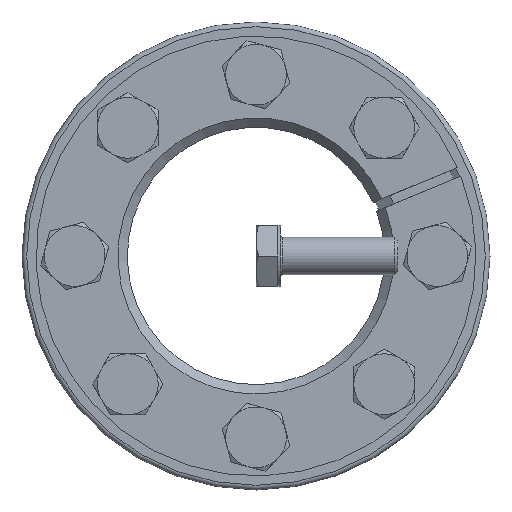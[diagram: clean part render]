
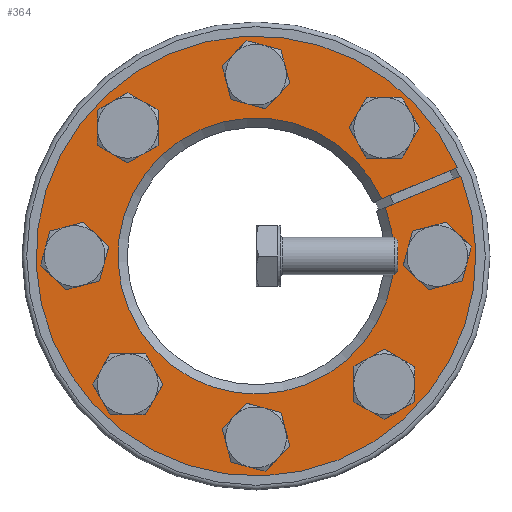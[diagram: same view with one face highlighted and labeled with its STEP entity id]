
A CAD part, front view. The second image highlights one B-rep face of the part: STEP entity #364.
In plain terms, the highlighted planar face has unit normal (0, -1, 0).
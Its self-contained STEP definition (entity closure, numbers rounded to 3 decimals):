
#364 = ADVANCED_FACE( '', ( #582, #583, #584, #585, #586, #587, #588, #589, #590 ), #591, .F. );
#582 = FACE_BOUND( '', #728, .T. );
#583 = FACE_BOUND( '', #729, .T. );
#584 = FACE_BOUND( '', #730, .T. );
#585 = FACE_BOUND( '', #731, .T. );
#586 = FACE_BOUND( '', #732, .T. );
#587 = FACE_BOUND( '', #733, .T. );
#588 = FACE_BOUND( '', #734, .T. );
#589 = FACE_BOUND( '', #735, .T. );
#590 = FACE_OUTER_BOUND( '', #736, .T. );
#591 = PLANE( '', #737 );
#728 = EDGE_LOOP( '', ( #903 ) );
#729 = EDGE_LOOP( '', ( #904 ) );
#730 = EDGE_LOOP( '', ( #905 ) );
#731 = EDGE_LOOP( '', ( #906 ) );
#732 = EDGE_LOOP( '', ( #907 ) );
#733 = EDGE_LOOP( '', ( #908 ) );
#734 = EDGE_LOOP( '', ( #909 ) );
#735 = EDGE_LOOP( '', ( #910 ) );
#736 = EDGE_LOOP( '', ( #911, #912, #913, #914 ) );
#737 = AXIS2_PLACEMENT_3D( '', #915, #916, #917 );
#903 = ORIENTED_EDGE( '', *, *, #1231, .T. );
#904 = ORIENTED_EDGE( '', *, *, #1232, .T. );
#905 = ORIENTED_EDGE( '', *, *, #1233, .T. );
#906 = ORIENTED_EDGE( '', *, *, #1234, .T. );
#907 = ORIENTED_EDGE( '', *, *, #1235, .T. );
#908 = ORIENTED_EDGE( '', *, *, #1236, .T. );
#909 = ORIENTED_EDGE( '', *, *, #1237, .T. );
#910 = ORIENTED_EDGE( '', *, *, #1238, .T. );
#911 = ORIENTED_EDGE( '', *, *, #1239, .T. );
#912 = ORIENTED_EDGE( '', *, *, #1240, .T. );
#913 = ORIENTED_EDGE( '', *, *, #1241, .F. );
#914 = ORIENTED_EDGE( '', *, *, #1242, .T. );
#915 = CARTESIAN_POINT( '', ( 0., 0., 50. ) );
#916 = DIRECTION( '', ( 0., 1., 0. ) );
#917 = DIRECTION( '', ( 0., 0., 1. ) );
#1231 = EDGE_CURVE( '', #1352, #1352, #1353, .T. );
#1232 = EDGE_CURVE( '', #1354, #1354, #1355, .T. );
#1233 = EDGE_CURVE( '', #1356, #1356, #1357, .T. );
#1234 = EDGE_CURVE( '', #1358, #1358, #1359, .T. );
#1235 = EDGE_CURVE( '', #1360, #1360, #1361, .T. );
#1236 = EDGE_CURVE( '', #1362, #1362, #1363, .T. );
#1237 = EDGE_CURVE( '', #1364, #1364, #1365, .T. );
#1238 = EDGE_CURVE( '', #1366, #1366, #1367, .T. );
#1239 = EDGE_CURVE( '', #1368, #1369, #1370, .T. );
#1240 = EDGE_CURVE( '', #1369, #1371, #1372, .T. );
#1241 = EDGE_CURVE( '', #1373, #1371, #1374, .T. );
#1242 = EDGE_CURVE( '', #1373, #1368, #1375, .T. );
#1352 = VERTEX_POINT( '', #1445 );
#1353 = CIRCLE( '', #1446, 4. );
#1354 = VERTEX_POINT( '', #1447 );
#1355 = CIRCLE( '', #1448, 4. );
#1356 = VERTEX_POINT( '', #1449 );
#1357 = CIRCLE( '', #1450, 4. );
#1358 = VERTEX_POINT( '', #1451 );
#1359 = CIRCLE( '', #1452, 4. );
#1360 = VERTEX_POINT( '', #1453 );
#1361 = CIRCLE( '', #1454, 4. );
#1362 = VERTEX_POINT( '', #1455 );
#1363 = CIRCLE( '', #1456, 4. );
#1364 = VERTEX_POINT( '', #1457 );
#1365 = CIRCLE( '', #1458, 4. );
#1366 = VERTEX_POINT( '', #1459 );
#1367 = CIRCLE( '', #1460, 4. );
#1368 = VERTEX_POINT( '', #1461 );
#1369 = VERTEX_POINT( '', #1462 );
#1370 = LINE( '', #1463, #1464 );
#1371 = VERTEX_POINT( '', #1465 );
#1372 = CIRCLE( '', #1466, 29.5 );
#1373 = VERTEX_POINT( '', #1467 );
#1374 = LINE( '', #1468, #1469 );
#1375 = CIRCLE( '', #1470, 47. );
#1445 = CARTESIAN_POINT( '', ( 24.572, 0., -30.229 ) );
#1446 = AXIS2_PLACEMENT_3D( '', #1576, #1577, #1578 );
#1447 = CARTESIAN_POINT( '', ( -30.229, 0., -24.572 ) );
#1448 = AXIS2_PLACEMENT_3D( '', #1579, #1580, #1581 );
#1449 = CARTESIAN_POINT( '', ( -24.572, 0., 30.229 ) );
#1450 = AXIS2_PLACEMENT_3D( '', #1582, #1583, #1584 );
#1451 = CARTESIAN_POINT( '', ( 30.229, 0., 24.572 ) );
#1452 = AXIS2_PLACEMENT_3D( '', #1585, #1586, #1587 );
#1453 = CARTESIAN_POINT( '', ( 38.75, 0., -4. ) );
#1454 = AXIS2_PLACEMENT_3D( '', #1588, #1589, #1590 );
#1455 = CARTESIAN_POINT( '', ( 4., 0., 38.75 ) );
#1456 = AXIS2_PLACEMENT_3D( '', #1591, #1592, #1593 );
#1457 = CARTESIAN_POINT( '', ( -38.75, 0., 4. ) );
#1458 = AXIS2_PLACEMENT_3D( '', #1594, #1595, #1596 );
#1459 = CARTESIAN_POINT( '', ( -4., 0., -38.75 ) );
#1460 = AXIS2_PLACEMENT_3D( '', #1597, #1598, #1599 );
#1461 = CARTESIAN_POINT( '', ( 43.795, 0., 17.058 ) );
#1462 = CARTESIAN_POINT( '', ( 27.621, 0., 10.359 ) );
#1463 = CARTESIAN_POINT( '', ( 43.805, 0., 17.062 ) );
#1464 = VECTOR( '', #1600, 1000. );
#1465 = CARTESIAN_POINT( '', ( 26.856, 0., 12.207 ) );
#1466 = AXIS2_PLACEMENT_3D( '', #1601, #1602, #1603 );
#1467 = CARTESIAN_POINT( '', ( 43.03, 0., 18.906 ) );
#1468 = CARTESIAN_POINT( '', ( 43.04, 0., 18.91 ) );
#1469 = VECTOR( '', #1604, 1000. );
#1470 = AXIS2_PLACEMENT_3D( '', #1605, #1606, #1607 );
#1576 = CARTESIAN_POINT( '', ( 27.4, 0., -27.4 ) );
#1577 = DIRECTION( '', ( 0., 1., 0. ) );
#1578 = DIRECTION( '', ( -0.707, 0., -0.707 ) );
#1579 = CARTESIAN_POINT( '', ( -27.4, 0., -27.4 ) );
#1580 = DIRECTION( '', ( 0., 1., 0. ) );
#1581 = DIRECTION( '', ( -0.707, 0., 0.707 ) );
#1582 = CARTESIAN_POINT( '', ( -27.4, 0., 27.4 ) );
#1583 = DIRECTION( '', ( 0., 1., 0. ) );
#1584 = DIRECTION( '', ( 0.707, 0., 0.707 ) );
#1585 = CARTESIAN_POINT( '', ( 27.4, 0., 27.4 ) );
#1586 = DIRECTION( '', ( 0., 1., 0. ) );
#1587 = DIRECTION( '', ( 0.707, 0., -0.707 ) );
#1588 = CARTESIAN_POINT( '', ( 38.75, 0., 0. ) );
#1589 = DIRECTION( '', ( 0., 1., 0. ) );
#1590 = DIRECTION( '', ( 0., 0., -1. ) );
#1591 = CARTESIAN_POINT( '', ( 0., 0., 38.75 ) );
#1592 = DIRECTION( '', ( 0., 1., 0. ) );
#1593 = DIRECTION( '', ( 1., 0., 0. ) );
#1594 = CARTESIAN_POINT( '', ( -38.75, 0., 0. ) );
#1595 = DIRECTION( '', ( 0., 1., 0. ) );
#1596 = DIRECTION( '', ( 0., 0., 1. ) );
#1597 = CARTESIAN_POINT( '', ( 0., 0., -38.75 ) );
#1598 = DIRECTION( '', ( 0., 1., 0. ) );
#1599 = DIRECTION( '', ( -1., 0., 0. ) );
#1600 = DIRECTION( '', ( -0.924, 0., -0.383 ) );
#1601 = CARTESIAN_POINT( '', ( 0., 0., 0. ) );
#1602 = DIRECTION( '', ( 0., 1., 0. ) );
#1603 = DIRECTION( '', ( 0., 0., 1. ) );
#1604 = DIRECTION( '', ( -0.924, 0., -0.383 ) );
#1605 = CARTESIAN_POINT( '', ( 0., 0., 0. ) );
#1606 = DIRECTION( '', ( 0., -1., 0. ) );
#1607 = DIRECTION( '', ( 0., 0., -1. ) );
